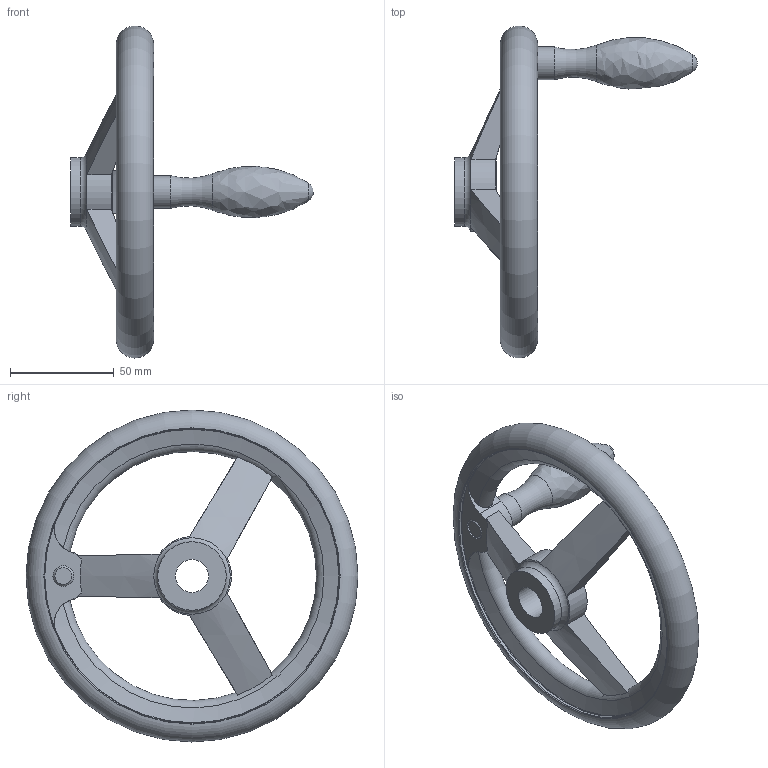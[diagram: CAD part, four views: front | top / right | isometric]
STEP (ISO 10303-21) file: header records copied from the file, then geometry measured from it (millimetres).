
FILE_DESCRIPTION( ( 'STEP AP203' ), '1' );
FILE_NAME( 'C:/Temp/Ganter_Step_05_03_2020/data/1_3/din_950/din_950_b/din_950_b_f/Handwheel DIN 950-GG-160-B16-F.stp', '2020-03-05T10:30:10', ( 'License CC BY-ND 4.0' ), ( 'CADENAS' ), ' ', 'PARTsolutions', ' ' );
FILE_SCHEMA( ( 'CONFIG_CONTROL_DESIGN' ) );
Length unit declared in the file: millimetre
Products named in the file (1): _Handwheel DIN 950-GG-160-B16-F
Bounding box: 117 x 159.99 x 159.99 mm (x, y, z)
Volume: 172948.4 mm3; surface area: 43503.4 mm2
Topology: 1 solids, 1 shells, 42 faces, 116 edges, 73 vertices
Faces by surface type: cylinder 13, plane 11, torus 11, cone 5, bspline 1, sphere 1
Full cylindrical faces by diameter (mm): 10 x1, 15.8 x1, 16 x1, 33 x2, 142 x2
Entity records: 1585 total; most frequent: CARTESIAN_POINT 600, DIRECTION 188, ORIENTED_EDGE 180, EDGE_CURVE 90, AXIS2_PLACEMENT_3D 89, VERTEX_POINT 69, EDGE_LOOP 67, FACE_OUTER_BOUND 58
